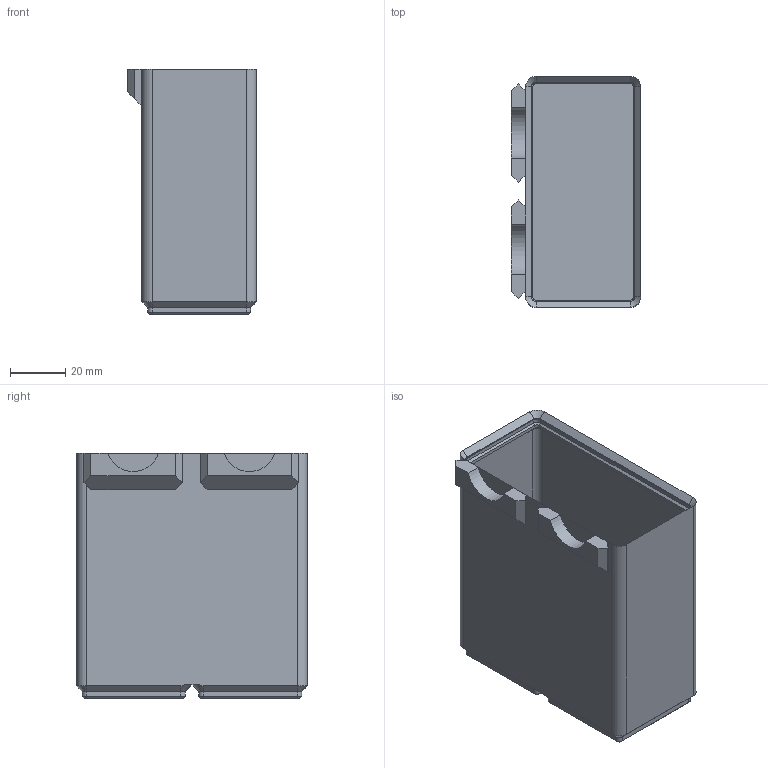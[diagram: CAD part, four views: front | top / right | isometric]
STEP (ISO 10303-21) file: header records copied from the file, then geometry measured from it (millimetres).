
FILE_DESCRIPTION(/* description */ ('','CAx-IF Rec.Pracs.---Representation and Presentation of Product Manufacturing Information (PMI)---4.0---2014-10-13'),/* implementation_level */ '2;1');
FILE_NAME(/* name */ 'Gridfinity 2x Double Tall Cup with GOEWS hanger.step',/* time_stamp */ '2024-11-29T14:29:18-05:00',/* author */ (''),/* organization */ (''),/* preprocessor_version */ 'ST-DEVELOPER v20',/* originating_system */ 'Autodesk Translation Framework v13.20.0.188',/* authorisation */ '');
FILE_SCHEMA (('AP242_MANAGED_MODEL_BASED_3D_ENGINEERING_MIM_LF { 1 0 10303 442 1 1 4 }'));
Length unit declared in the file: millimetre
Products named in the file (1): Blank Storage
Bounding box: 46.65 x 83.5 x 88.75 mm (x, y, z)
Volume: 45479.3 mm3; surface area: 49452.5 mm2
Topology: 1 solids, 1 shells, 183 faces, 375 edges, 210 vertices
Faces by surface type: plane 105, cylinder 46, cone 32
Full cylindrical faces by diameter (mm): 3 x8, 6.5 x8
Entity records: 4682 total; most frequent: DIRECTION 843, CARTESIAN_POINT 777, ORIENTED_EDGE 750, EDGE_CURVE 375, AXIS2_PLACEMENT_3D 288, LINE 267, VECTOR 267, VERTEX_POINT 210
